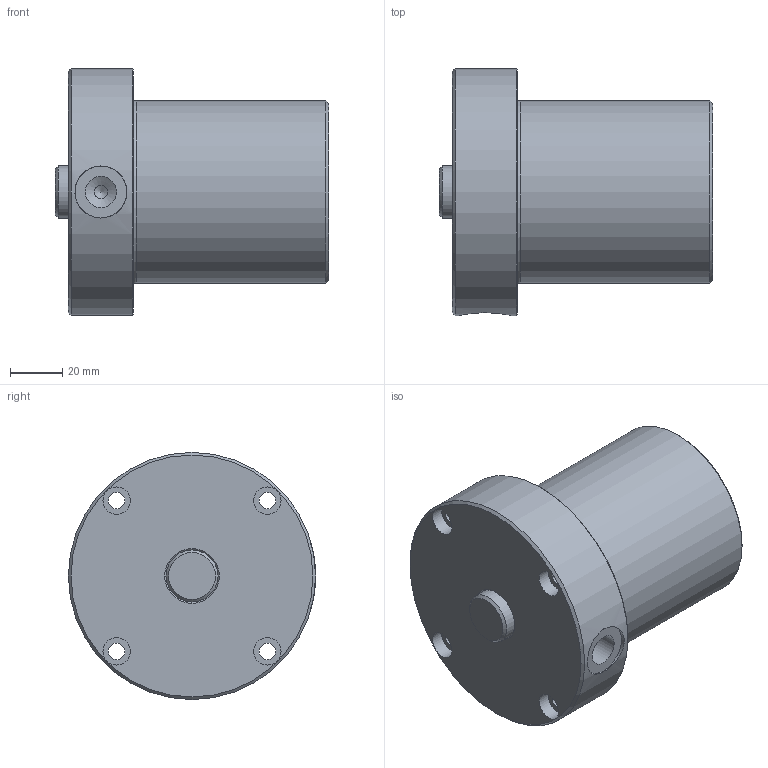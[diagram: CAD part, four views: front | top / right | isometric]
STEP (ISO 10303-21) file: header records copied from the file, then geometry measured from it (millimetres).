
FILE_DESCRIPTION( ( 'Unknown' ), '1' );
FILE_NAME( 'F:/JAKOB-STEP+IGES-Dateien/STEP-Dateien/ZDF/ZDFo 2500.stp', 'Unknown', ( 'Unknown' ), ( 'Unknown' ), 'XStep 1.0', 'Unknown', ' ' );
FILE_SCHEMA( ( 'CONFIG_CONTROL_DESIGN' ) );
Length unit declared in the file: millimetre
Products named in the file (1): 1
Bounding box: 105 x 95 x 95 mm (x, y, z)
Volume: 460177.4 mm3; surface area: 40800.8 mm2
Topology: 1 solids, 1 shells, 31 faces, 63 edges, 41 vertices
Faces by surface type: cylinder 14, plane 9, cone 7, torus 1
Full cylindrical faces by diameter (mm): 5 x1, 6.4 x4, 10.5 x4, 12 x1, 20 x2, 70 x1, 95 x1
Entity records: 809 total; most frequent: CARTESIAN_POINT 195, DIRECTION 130, EDGE_LOOP 68, ORIENTED_EDGE 68, AXIS2_PLACEMENT_3D 65, FACE_OUTER_BOUND 46, VERTEX_POINT 35, EDGE_CURVE 34
